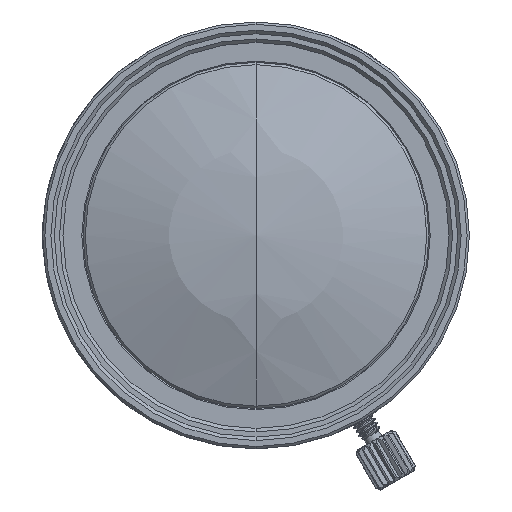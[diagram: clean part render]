
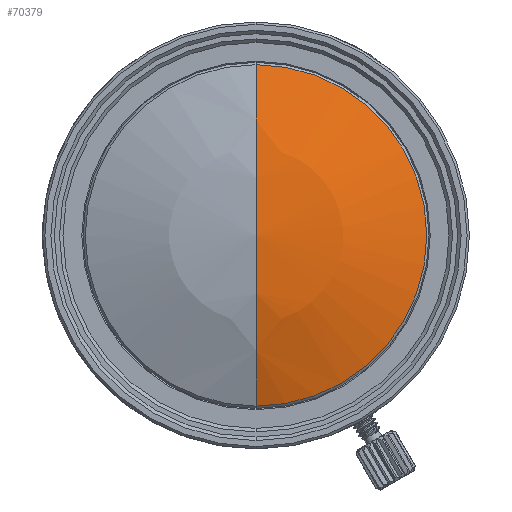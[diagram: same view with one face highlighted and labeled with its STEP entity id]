
A CAD part, left-side view. The second image highlights one B-rep face of the part: STEP entity #70379.
In plain terms, the highlighted spherical face has radius 39.4 mm.
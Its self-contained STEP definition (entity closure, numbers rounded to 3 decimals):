
#70248=CARTESIAN_POINT('',(-22.771,0.,0.));
#70249=DIRECTION('',(0.,1.,0.));
#70250=DIRECTION('',(-1.,0.,0.));
#70251=AXIS2_PLACEMENT_3D('',#70248,#70249,#70250);
#70253=CARTESIAN_POINT('',(-59.286,0.,0.));
#70254=DIRECTION('',(1.,0.,0.));
#70255=DIRECTION('',(0.,0.,1.));
#70256=AXIS2_PLACEMENT_3D('',#70253,#70254,#70255);
#70258=CARTESIAN_POINT('',(-22.771,0.,0.));
#70259=DIRECTION('',(0.,1.,0.));
#70260=DIRECTION('',(-0.927,0.,-0.376));
#70261=AXIS2_PLACEMENT_3D('',#70258,#70259,#70260);
#70342=CARTESIAN_POINT('',(-62.171,0.,0.));
#70343=CARTESIAN_POINT('',(-59.286,0.,14.8));
#70344=VERTEX_POINT('',#70342);
#70345=VERTEX_POINT('',#70343);
#70346=CARTESIAN_POINT('',(-59.286,0.,-14.8));
#70347=VERTEX_POINT('',#70346);
#70366=CARTESIAN_POINT('',(-22.771,0.,0.));
#70367=DIRECTION('',(1.,0.,0.));
#70368=DIRECTION('',(0.,0.,1.));
#70369=AXIS2_PLACEMENT_3D('',#70366,#70367,#70368);
#70370=SPHERICAL_SURFACE('',#70369,39.4);
#70372=ORIENTED_EDGE('',*,*,#70371,.T.);
#70374=ORIENTED_EDGE('',*,*,#70373,.T.);
#70376=ORIENTED_EDGE('',*,*,#70375,.T.);
#70377=EDGE_LOOP('',(#70372,#70374,#70376));
#70378=FACE_OUTER_BOUND('',#70377,.F.);
#70379=ADVANCED_FACE('',(#70378),#70370,.T.);
#70252=CIRCLE('',#70251,39.4);
#70257=CIRCLE('',#70256,14.8);
#70262=CIRCLE('',#70261,39.4);
#70371=EDGE_CURVE('',#70344,#70345,#70252,.T.);
#70373=EDGE_CURVE('',#70345,#70347,#70257,.T.);
#70375=EDGE_CURVE('',#70347,#70344,#70262,.T.);
